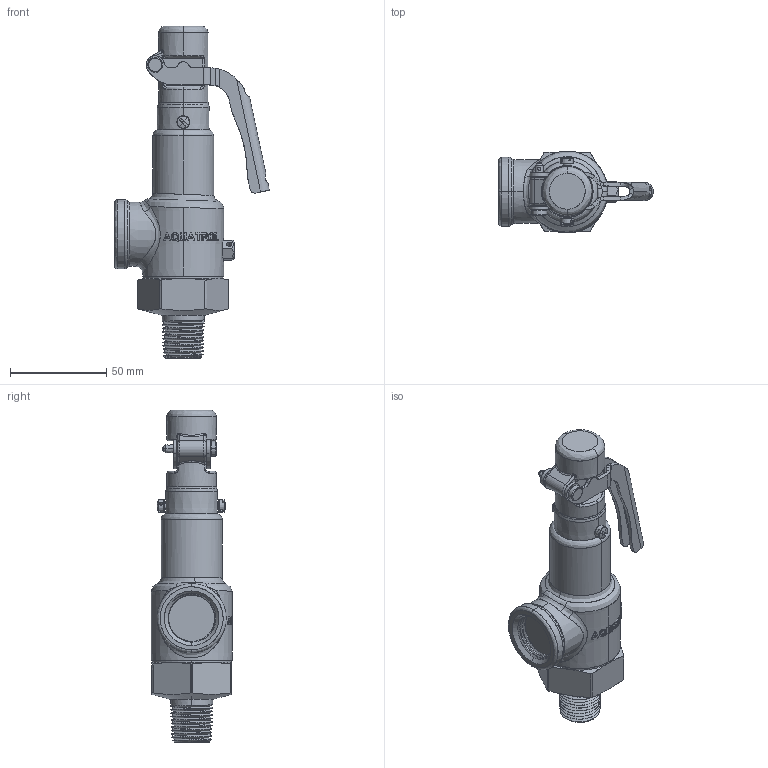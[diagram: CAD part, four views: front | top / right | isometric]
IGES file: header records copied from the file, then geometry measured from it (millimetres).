
Start section: SolidWorks IGES file using analytic representation for surfaces
Global section: file name: C:\Design\Design\Aquatrol\Customer 3D Files\Series 88 Customer Files\Series 88 500 x 750\Customer\Series 88 500 x 750.IGS; native system: SolidWorks 2015; preprocessor: SolidWorks 2015; author: Karl; date: 141230.083439; units: inch
Bounding box: 80.55 x 42.55 x 172.85 mm (x, y, z)
Surface area: 29684.8 mm2 (no closed solid volume)
Topology: 0 solids, 0 shells, 415 faces, 7307 edges, 7307 vertices
Faces by surface type: bspline 239, revolution 176
